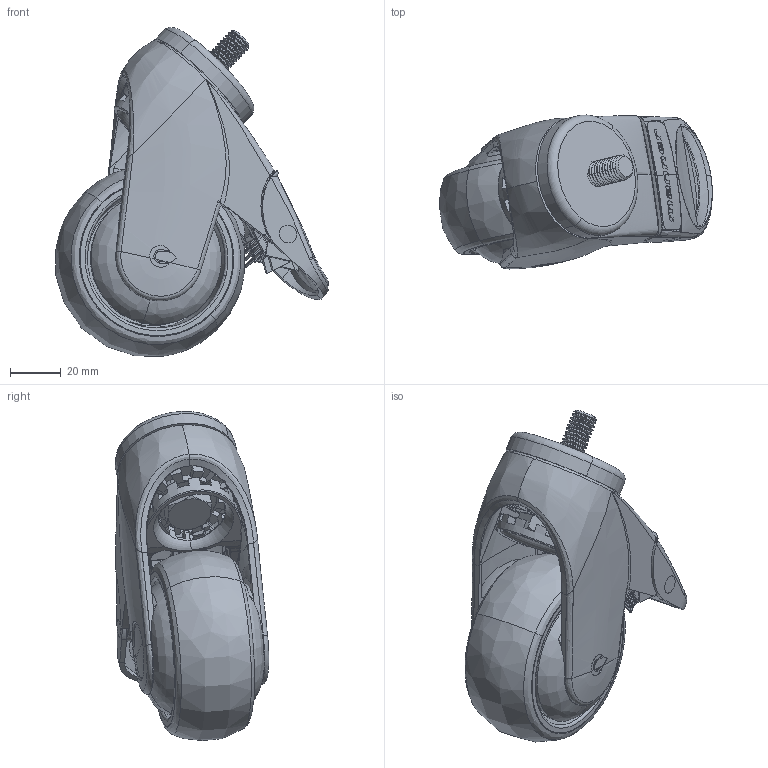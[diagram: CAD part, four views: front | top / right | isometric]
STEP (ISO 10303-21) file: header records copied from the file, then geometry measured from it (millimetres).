
FILE_DESCRIPTION (( 'STEP AP203' ), '1' );
FILE_NAME ('GKR-J-S-75 PTE-K 80.STEP', '2019-11-07T08:21:29', ( '' ), ( '' ), 'SwSTEP 2.0', 'SolidWorks 2017', '' );
FILE_SCHEMA (( 'CONFIG_CONTROL_DESIGN' ));
Products named in the file (1): GKR-J-S-75 PTE-K 80
Bounding box: 107.01 x 60.28 x 129.1 mm (x, y, z)
Volume: 184558.1 mm3; surface area: 122504.4 mm2
Topology: 26 solids, 26 shells, 2204 faces, 6278 edges, 4060 vertices
Faces by surface type: bspline 768, plane 604, cylinder 454, cone 174, torus 162, sphere 42
Entity records: 146276 total; most frequent: CARTESIAN_POINT 97087, ORIENTED_EDGE 12360, DIRECTION 7560, EDGE_CURVE 6180, VERTEX_POINT 4028, AXIS2_PLACEMENT_3D 2951, B_SPLINE_CURVE_WITH_KNOTS 2626, EDGE_LOOP 2276
